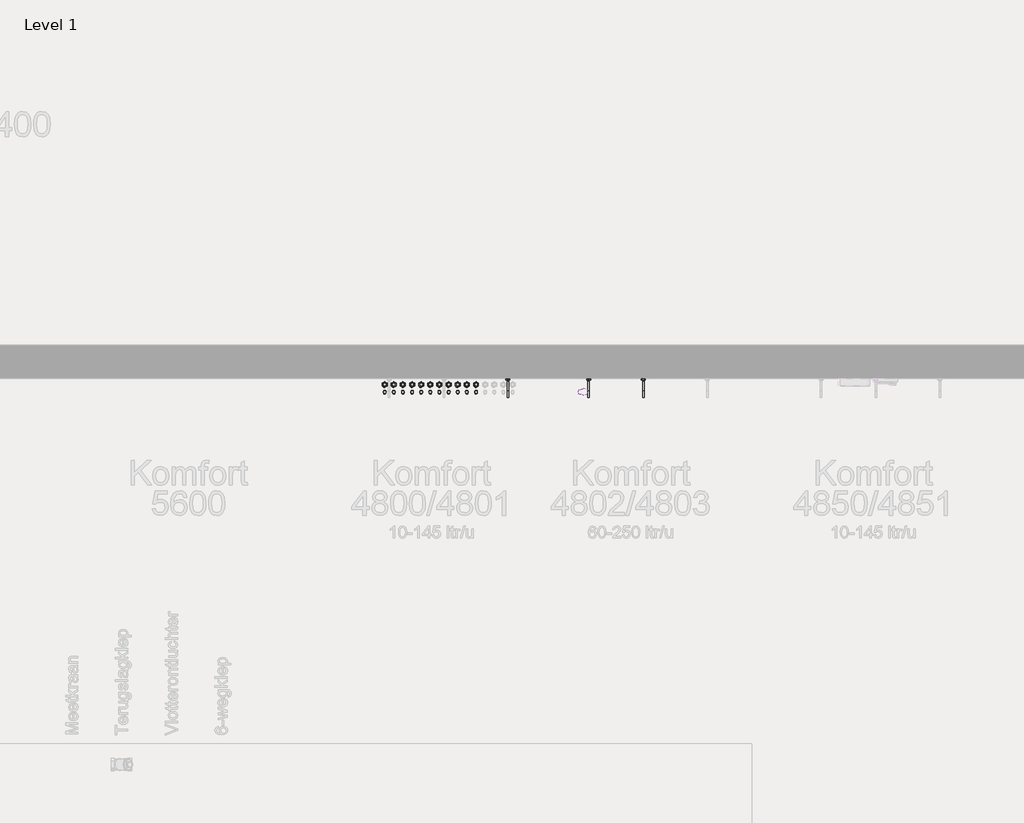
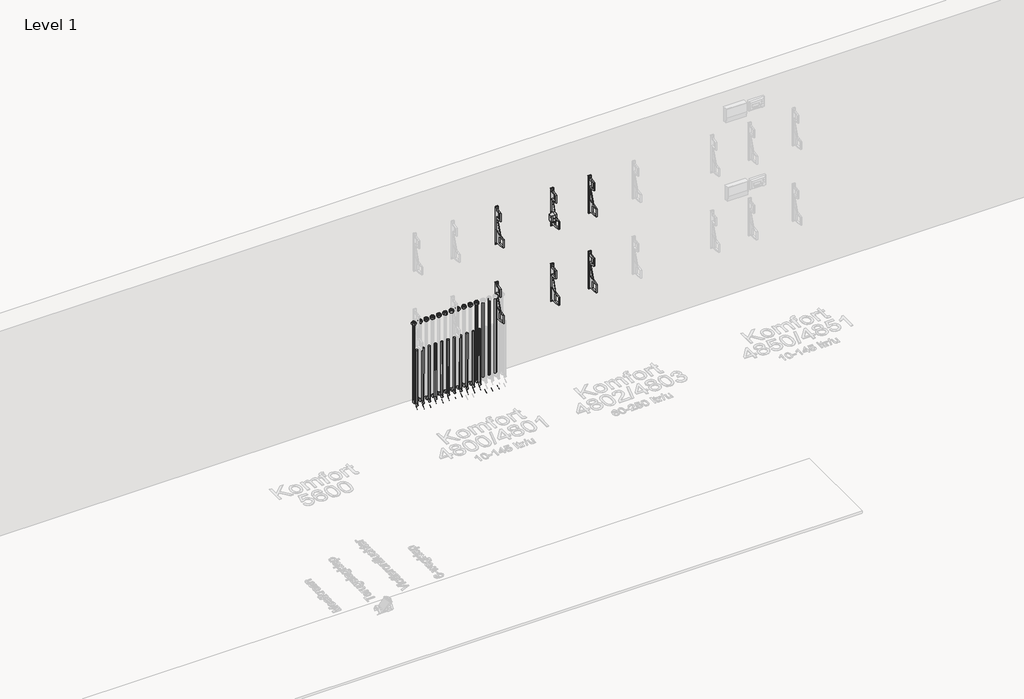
# One storey, part 7 of 34: 44 pipe fittings, 28 pipe segments, 6 proxies, 1 valve.
"""IFC4 building model written with IfcOpenShell, lengths in millimetres."""

from ifc_helpers import new_model, si_unit, point, frame, frame_2d, origin, place, context, project, spatial, circle_curve, trimmed, segment, composite_curve, outline, extrude, transform, mapped, element, save
from components import mechanical_equipment_e809440a, pipe_fitting_01076926, comfort_pipe_plus_d9ac523e, comfort_pipe_plus_d8c71379, comfort_pipe_plus_e869fb8a, valve_dab7beca

model = new_model("IFC4")

# Units and contexts
model_context = context("Model", 3, world=origin())
ifc_project = project(units=[si_unit("LENGTHUNIT", "METRE", prefix="MILLI")], contexts=[model_context])

# Site, building, storey
site = spatial("IfcSite", under=ifc_project)
building = spatial("IfcBuilding", under=site)
storey = spatial("IfcBuildingStorey", under=building, Name="Level 1", Elevation=0.0)

# Proxies
placement = place(None, origin())
mechanical_equipment_shape = mechanical_equipment_e809440a(model_context)
element("IfcBuildingElementProxy", 1, Name="400_56_KOMF_montagebeugel_2 : 400_56_KOMF_montagebeugel_2", ObjectType="400_56_KOMF_montagebeugel_2 : 400_56_KOMF_montagebeugel_2", at=placement, inside=storey, context=model_context, shape_type="MappedRepresentation", body=[
    mapped(mechanical_equipment_shape, transform((-9336.6827235, 7589.9863889, 1200.0), x_axis=(1.0, 0.0, 0.0), y_axis=(0.0, 0.0, 1.0), z_axis=(0.0, -1.0, 0.0))),
])
element("IfcBuildingElementProxy", 2, Name="400_56_KOMF_montagebeugel_2 : 400_56_KOMF_montagebeugel_2", ObjectType="400_56_KOMF_montagebeugel_2 : 400_56_KOMF_montagebeugel_2", at=placement, inside=storey, context=model_context, shape_type="MappedRepresentation", body=[
    mapped(mechanical_equipment_shape, transform((-9006.6827235, 7589.9863889, 1200.0), x_axis=(1.0, 0.0, 0.0), y_axis=(0.0, 0.0, 1.0), z_axis=(0.0, -1.0, 0.0))),
])
element("IfcBuildingElementProxy", 3, Name="400_56_KOMF_montagebeugel_2 : 400_56_KOMF_montagebeugel_2", ObjectType="400_56_KOMF_montagebeugel_2 : 400_56_KOMF_montagebeugel_2", at=placement, inside=storey, context=model_context, shape_type="MappedRepresentation", body=[
    mapped(mechanical_equipment_shape, transform((-9336.6827235, 7589.9863889, 500.0), x_axis=(1.0, 0.0, 0.0), y_axis=(0.0, 0.0, 1.0), z_axis=(0.0, -1.0, 0.0))),
])
element("IfcBuildingElementProxy", 4, Name="400_56_KOMF_montagebeugel_2 : 400_56_KOMF_montagebeugel_2", ObjectType="400_56_KOMF_montagebeugel_2 : 400_56_KOMF_montagebeugel_2", at=placement, inside=storey, context=model_context, shape_type="MappedRepresentation", body=[
    mapped(mechanical_equipment_shape, transform((-9006.6827235, 7589.9863889, 500.0), x_axis=(1.0, 0.0, 0.0), y_axis=(0.0, 0.0, 1.0), z_axis=(0.0, -1.0, 0.0))),
])
element("IfcBuildingElementProxy", 5, Name="400_56_KOMF_montagebeugel_2 : 400_56_KOMF_montagebeugel_2", ObjectType="400_56_KOMF_montagebeugel_2 : 400_56_KOMF_montagebeugel_2", at=placement, inside=storey, context=model_context, shape_type="MappedRepresentation", body=[
    mapped(mechanical_equipment_shape, transform((-9821.6827235, 7589.9863889, 1200.0), x_axis=(1.0, 0.0, 0.0), y_axis=(0.0, 0.0, 1.0), z_axis=(0.0, -1.0, 0.0))),
])
element("IfcBuildingElementProxy", 6, Name="400_56_KOMF_montagebeugel_2 : 400_56_KOMF_montagebeugel_2", ObjectType="400_56_KOMF_montagebeugel_2 : 400_56_KOMF_montagebeugel_2", at=placement, inside=storey, context=model_context, shape_type="MappedRepresentation", body=[
    mapped(mechanical_equipment_shape, transform((-9821.6827235, 7589.9863889, 500.0), x_axis=(1.0, 0.0, 0.0), y_axis=(0.0, 0.0, 1.0), z_axis=(0.0, -1.0, 0.0))),
])

# Pipe fittings
pipe_fitting_shape = pipe_fitting_01076926(model_context)
element("IfcPipeFitting", 7, ObjectType="400_5-_Uponor Vario klemringschroefkoppeling Euro : klemringschroefkoppeling s=2mm", at=placement, inside=storey, context=model_context, shape_type="MappedRepresentation", body=[
    mapped(pipe_fitting_shape, transform((-10564.1827235, 7552.9863889, 730.0), x_axis=(0.0, 0.0, 1.0), y_axis=(1.0, 0.0, 0.0), z_axis=(0.0, 1.0, 0.0))),
])
element("IfcPipeFitting", 8, ObjectType="400_5-_Uponor Vario klemringschroefkoppeling Euro : klemringschroefkoppeling s=2mm", at=placement, inside=storey, context=model_context, shape_type="MappedRepresentation", body=[
    mapped(pipe_fitting_shape, transform((-10509.1827235, 7552.9863889, 730.0), x_axis=(0.0, 0.0, 1.0), y_axis=(1.0, 0.0, 0.0), z_axis=(0.0, 1.0, 0.0))),
])
element("IfcPipeFitting", 9, ObjectType="400_5-_Uponor Vario klemringschroefkoppeling Euro : klemringschroefkoppeling s=2mm", at=placement, inside=storey, context=model_context, shape_type="MappedRepresentation", body=[
    mapped(pipe_fitting_shape, transform((-10454.1827235, 7552.9863889, 730.0), x_axis=(0.0, 0.0, 1.0), y_axis=(1.0, 0.0, 0.0), z_axis=(0.0, 1.0, 0.0))),
])
element("IfcPipeFitting", 10, ObjectType="400_5-_Uponor Vario klemringschroefkoppeling Euro : klemringschroefkoppeling s=2mm", at=placement, inside=storey, context=model_context, shape_type="MappedRepresentation", body=[
    mapped(pipe_fitting_shape, transform((-10399.1827235, 7552.9863889, 730.0), x_axis=(0.0, 0.0, 1.0), y_axis=(1.0, 0.0, 0.0), z_axis=(0.0, 1.0, 0.0))),
])
element("IfcPipeFitting", 11, ObjectType="400_5-_Uponor Vario klemringschroefkoppeling Euro : klemringschroefkoppeling s=2mm", at=placement, inside=storey, context=model_context, shape_type="MappedRepresentation", body=[
    mapped(pipe_fitting_shape, transform((-10344.1827235, 7552.9863889, 730.0), x_axis=(0.0, 0.0, 1.0), y_axis=(1.0, 0.0, 0.0), z_axis=(0.0, 1.0, 0.0))),
])
element("IfcPipeFitting", 12, ObjectType="400_5-_Uponor Vario klemringschroefkoppeling Euro : klemringschroefkoppeling s=2mm", at=placement, inside=storey, context=model_context, shape_type="MappedRepresentation", body=[
    mapped(pipe_fitting_shape, transform((-10289.1827235, 7552.9863889, 730.0), x_axis=(0.0, 0.0, 1.0), y_axis=(1.0, 0.0, 0.0), z_axis=(0.0, 1.0, 0.0))),
])
element("IfcPipeFitting", 13, ObjectType="400_5-_Uponor Vario klemringschroefkoppeling Euro : klemringschroefkoppeling s=2mm", at=placement, inside=storey, context=model_context, shape_type="MappedRepresentation", body=[
    mapped(pipe_fitting_shape, transform((-10234.1827235, 7552.9863889, 730.0), x_axis=(0.0, 0.0, 1.0), y_axis=(1.0, 0.0, 0.0), z_axis=(0.0, 1.0, 0.0))),
])
element("IfcPipeFitting", 14, ObjectType="400_5-_Uponor Vario klemringschroefkoppeling Euro : klemringschroefkoppeling s=2mm", at=placement, inside=storey, context=model_context, shape_type="MappedRepresentation", body=[
    mapped(pipe_fitting_shape, transform((-10179.1827235, 7552.9863889, 730.0), x_axis=(0.0, 0.0, 1.0), y_axis=(1.0, 0.0, 0.0), z_axis=(0.0, 1.0, 0.0))),
])
element("IfcPipeFitting", 15, ObjectType="400_5-_Uponor Vario klemringschroefkoppeling Euro : klemringschroefkoppeling s=2mm", at=placement, inside=storey, context=model_context, shape_type="MappedRepresentation", body=[
    mapped(pipe_fitting_shape, transform((-10124.1827235, 7552.9863889, 730.0), x_axis=(0.0, 0.0, 1.0), y_axis=(1.0, 0.0, 0.0), z_axis=(0.0, 1.0, 0.0))),
])
element("IfcPipeFitting", 16, ObjectType="400_5-_Uponor Vario klemringschroefkoppeling Euro : klemringschroefkoppeling s=2mm", at=placement, inside=storey, context=model_context, shape_type="MappedRepresentation", body=[
    mapped(pipe_fitting_shape, transform((-10069.1827235, 7552.9863889, 730.0), x_axis=(0.0, 0.0, 1.0), y_axis=(1.0, 0.0, 0.0), z_axis=(0.0, 1.0, 0.0))),
])
element("IfcPipeFitting", 17, ObjectType="400_5-_Uponor Vario klemringschroefkoppeling Euro : klemringschroefkoppeling s=2mm", at=placement, inside=storey, context=model_context, shape_type="MappedRepresentation", body=[
    mapped(pipe_fitting_shape, transform((-10014.1827235, 7552.9863889, 730.0), x_axis=(0.0, 0.0, 1.0), y_axis=(1.0, 0.0, 0.0), z_axis=(0.0, 1.0, 0.0))),
])
comfort_pipe_plus_shape = comfort_pipe_plus_d9ac523e(model_context)
element("IfcPipeFitting", 18, ObjectType="400_5-_Uponor_curved_Elbow : Comfort pipe PLUS", at=placement, inside=storey, context=model_context, shape_type="MappedRepresentation", body=[
    mapped(comfort_pipe_plus_shape, transform((-10564.1827235, 7552.9863889, -43.6490683), x_axis=(0.22560146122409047, 0.974219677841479, 0.0), y_axis=(0.0, 0.0, 1.0), z_axis=(0.974219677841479, -0.22560146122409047, 0.0))),
])
element("IfcPipeFitting", 19, ObjectType="400_5-_Uponor_curved_Elbow : Comfort pipe PLUS", at=placement, inside=storey, context=model_context, shape_type="MappedRepresentation", body=[
    mapped(comfort_pipe_plus_shape, transform((-10509.1827235, 7552.9863889, -43.6490683), x_axis=(0.22560146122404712, 0.9742196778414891, 0.0), y_axis=(0.0, 0.0, 1.0), z_axis=(0.9742196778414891, -0.22560146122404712, 0.0))),
])
element("IfcPipeFitting", 20, ObjectType="400_5-_Uponor_curved_Elbow : Comfort pipe PLUS", at=placement, inside=storey, context=model_context, shape_type="MappedRepresentation", body=[
    mapped(comfort_pipe_plus_shape, transform((-10454.1827235, 7552.9863889, -43.6490683), x_axis=(0.22560146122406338, 0.9742196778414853, 0.0), y_axis=(0.0, 0.0, 1.0), z_axis=(0.9742196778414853, -0.22560146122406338, 0.0))),
])
element("IfcPipeFitting", 21, ObjectType="400_5-_Uponor_curved_Elbow : Comfort pipe PLUS", at=placement, inside=storey, context=model_context, shape_type="MappedRepresentation", body=[
    mapped(comfort_pipe_plus_shape, transform((-10399.1827235, 7552.9863889, -43.6490683), x_axis=(0.22560146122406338, 0.9742196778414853, 0.0), y_axis=(0.0, 0.0, 1.0), z_axis=(0.9742196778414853, -0.22560146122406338, 0.0))),
])
element("IfcPipeFitting", 22, ObjectType="400_5-_Uponor_curved_Elbow : Comfort pipe PLUS", at=placement, inside=storey, context=model_context, shape_type="MappedRepresentation", body=[
    mapped(comfort_pipe_plus_shape, transform((-10344.1827235, 7552.9863889, -43.6490683), x_axis=(0.22560146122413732, 0.9742196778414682, 0.0), y_axis=(0.0, 0.0, 1.0000000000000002), z_axis=(0.9742196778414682, -0.22560146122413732, 0.0))),
])
element("IfcPipeFitting", 23, ObjectType="400_5-_Uponor_curved_Elbow : Comfort pipe PLUS", at=placement, inside=storey, context=model_context, shape_type="MappedRepresentation", body=[
    mapped(comfort_pipe_plus_shape, transform((-10289.1827235, 7552.9863889, -43.6490683), x_axis=(0.22560146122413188, 0.9742196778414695, 0.0), y_axis=(0.0, 0.0, 1.0), z_axis=(0.9742196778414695, -0.22560146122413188, 0.0))),
])
element("IfcPipeFitting", 24, ObjectType="400_5-_Uponor_curved_Elbow : Comfort pipe PLUS", at=placement, inside=storey, context=model_context, shape_type="MappedRepresentation", body=[
    mapped(comfort_pipe_plus_shape, transform((-10234.1827235, 7552.9863889, -43.6490683), x_axis=(0.22560146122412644, 0.9742196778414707, 0.0), y_axis=(0.0, 0.0, 1.0), z_axis=(0.9742196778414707, -0.22560146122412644, 0.0))),
])
element("IfcPipeFitting", 25, ObjectType="400_5-_Uponor_curved_Elbow : Comfort pipe PLUS", at=placement, inside=storey, context=model_context, shape_type="MappedRepresentation", body=[
    mapped(comfort_pipe_plus_shape, transform((-10179.1827235, 7552.9863889, -43.6490683), x_axis=(0.22560146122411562, 0.9742196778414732, 0.0), y_axis=(0.0, 0.0, 1.0), z_axis=(0.9742196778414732, -0.22560146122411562, 0.0))),
])
element("IfcPipeFitting", 26, ObjectType="400_5-_Uponor_curved_Elbow : Comfort pipe PLUS", at=placement, inside=storey, context=model_context, shape_type="MappedRepresentation", body=[
    mapped(comfort_pipe_plus_shape, transform((-10124.1827235, 7552.9863889, -43.6490683), x_axis=(0.22560146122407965, 0.9742196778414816, 0.0), y_axis=(0.0, 0.0, 1.0), z_axis=(0.9742196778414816, -0.22560146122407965, 0.0))),
])
element("IfcPipeFitting", 27, ObjectType="400_5-_Uponor_curved_Elbow : Comfort pipe PLUS", at=placement, inside=storey, context=model_context, shape_type="MappedRepresentation", body=[
    mapped(comfort_pipe_plus_shape, transform((-10069.1827235, 7552.9863889, -43.6490683), x_axis=(0.22560146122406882, 0.9742196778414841, 0.0), y_axis=(0.0, 0.0, 1.0), z_axis=(0.9742196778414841, -0.22560146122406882, 0.0))),
])
element("IfcPipeFitting", 28, ObjectType="400_5-_Uponor_curved_Elbow : Comfort pipe PLUS", at=placement, inside=storey, context=model_context, shape_type="MappedRepresentation", body=[
    mapped(comfort_pipe_plus_shape, transform((-10014.1827235, 7552.9863889, -43.6490683), x_axis=(0.2256014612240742, 0.9742196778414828, 0.0), y_axis=(0.0, 0.0, 1.0), z_axis=(0.9742196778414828, -0.2256014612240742, 0.0))),
])
comfort_pipe_plus_2_shape = comfort_pipe_plus_d8c71379(model_context)
element("IfcPipeFitting", 29, ObjectType="400_5-_Uponor_curved_Elbow : Comfort pipe PLUS", at=placement, inside=storey, context=model_context, shape_type="MappedRepresentation", body=[
    mapped(comfort_pipe_plus_2_shape, transform((-10591.6827235, 7434.2325431, -43.6490683), x_axis=(-0.22560146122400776, -0.9742196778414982, 0.0), y_axis=(0.9742196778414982, -0.22560146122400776, 0.0), z_axis=(0.0, 0.0, 1.0))),
])
element("IfcPipeFitting", 30, ObjectType="400_5-_Uponor_curved_Elbow : Comfort pipe PLUS", at=placement, inside=storey, context=model_context, shape_type="MappedRepresentation", body=[
    mapped(comfort_pipe_plus_2_shape, transform((-10536.6827235, 7434.2325431, -43.6490683), x_axis=(-0.22560146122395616, -0.9742196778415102, 0.0), y_axis=(0.9742196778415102, -0.22560146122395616, 0.0), z_axis=(0.0, 0.0, 1.0))),
])
element("IfcPipeFitting", 31, ObjectType="400_5-_Uponor_curved_Elbow : Comfort pipe PLUS", at=placement, inside=storey, context=model_context, shape_type="MappedRepresentation", body=[
    mapped(comfort_pipe_plus_2_shape, transform((-10481.6827235, 7434.2325431, -43.6490683), x_axis=(-0.22560146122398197, -0.9742196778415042, 0.0), y_axis=(0.9742196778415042, -0.22560146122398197, 0.0), z_axis=(0.0, 0.0, 1.0))),
])
element("IfcPipeFitting", 32, ObjectType="400_5-_Uponor_curved_Elbow : Comfort pipe PLUS", at=placement, inside=storey, context=model_context, shape_type="MappedRepresentation", body=[
    mapped(comfort_pipe_plus_2_shape, transform((-10426.6827235, 7434.2325431, -43.6490683), x_axis=(-0.22560146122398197, -0.9742196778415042, 0.0), y_axis=(0.9742196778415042, -0.22560146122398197, 0.0), z_axis=(0.0, 0.0, 1.0))),
])
element("IfcPipeFitting", 33, ObjectType="400_5-_Uponor_curved_Elbow : Comfort pipe PLUS", at=placement, inside=storey, context=model_context, shape_type="MappedRepresentation", body=[
    mapped(comfort_pipe_plus_2_shape, transform((-10371.6827235, 7434.2325431, -43.6490683), x_axis=(-0.22560146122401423, -0.9742196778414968, 0.0), y_axis=(0.9742196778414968, -0.22560146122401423, 0.0), z_axis=(0.0, 0.0, 1.0))),
])
element("IfcPipeFitting", 34, ObjectType="400_5-_Uponor_curved_Elbow : Comfort pipe PLUS", at=placement, inside=storey, context=model_context, shape_type="MappedRepresentation", body=[
    mapped(comfort_pipe_plus_2_shape, transform((-10316.6827235, 7434.2325431, -43.6490683), x_axis=(-0.22560146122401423, -0.9742196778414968, 0.0), y_axis=(0.9742196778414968, -0.22560146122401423, 0.0), z_axis=(0.0, 0.0, 1.0))),
])
element("IfcPipeFitting", 35, ObjectType="400_5-_Uponor_curved_Elbow : Comfort pipe PLUS", at=placement, inside=storey, context=model_context, shape_type="MappedRepresentation", body=[
    mapped(comfort_pipe_plus_2_shape, transform((-10261.6827235, 7434.2325431, -43.6490683), x_axis=(-0.22560146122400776, -0.9742196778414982, 0.0), y_axis=(0.9742196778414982, -0.22560146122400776, 0.0), z_axis=(0.0, 0.0, 1.0))),
])
element("IfcPipeFitting", 36, ObjectType="400_5-_Uponor_curved_Elbow : Comfort pipe PLUS", at=placement, inside=storey, context=model_context, shape_type="MappedRepresentation", body=[
    mapped(comfort_pipe_plus_2_shape, transform((-10206.6827235, 7434.2325431, -43.6490683), x_axis=(-0.22560146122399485, -0.9742196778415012, 0.0), y_axis=(0.9742196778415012, -0.22560146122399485, 0.0), z_axis=(0.0, 0.0, 1.0))),
])
element("IfcPipeFitting", 37, ObjectType="400_5-_Uponor_curved_Elbow : Comfort pipe PLUS", at=placement, inside=storey, context=model_context, shape_type="MappedRepresentation", body=[
    mapped(comfort_pipe_plus_2_shape, transform((-10041.6827235, 7434.2325431, -43.6490683), x_axis=(-0.2256014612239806, -0.9742196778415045, 0.0), y_axis=(0.9742196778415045, -0.2256014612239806, 0.0), z_axis=(0.0, 0.0, 1.0))),
])
element("IfcPipeFitting", 38, ObjectType="400_5-_Uponor_curved_Elbow : Comfort pipe PLUS", at=placement, inside=storey, context=model_context, shape_type="MappedRepresentation", body=[
    mapped(comfort_pipe_plus_2_shape, transform((-10096.6827235, 7434.2325431, -43.6490683), x_axis=(-0.22560146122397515, -0.9742196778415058, 0.0), y_axis=(0.9742196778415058, -0.22560146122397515, 0.0), z_axis=(0.0, 0.0, 1.0))),
])
element("IfcPipeFitting", 39, ObjectType="400_5-_Uponor_curved_Elbow : Comfort pipe PLUS", at=placement, inside=storey, context=model_context, shape_type="MappedRepresentation", body=[
    mapped(comfort_pipe_plus_2_shape, transform((-10151.6827235, 7434.2325431, -43.6490683), x_axis=(-0.225601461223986, -0.9742196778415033, 0.0), y_axis=(0.9742196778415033, -0.225601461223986, 0.0), z_axis=(0.0, 0.0, 1.0))),
])
comfort_pipe_plus_3_shape = comfort_pipe_plus_e869fb8a(model_context)
element("IfcPipeFitting", 40, ObjectType="400_5-_Uponor_curved_Elbow : Comfort pipe PLUS", at=placement, inside=storey, context=model_context, shape_type="MappedRepresentation", body=[
    mapped(comfort_pipe_plus_3_shape, transform((-10014.1827235, 7509.9863889, -43.6490683), x_axis=(0.0, 1.0, 0.0), y_axis=(0.0, 0.0, 1.0), z_axis=(1.0, 0.0, 0.0))),
])
element("IfcPipeFitting", 41, ObjectType="400_5-_Uponor_curved_Elbow : Comfort pipe PLUS", at=placement, inside=storey, context=model_context, shape_type="MappedRepresentation", body=[
    mapped(comfort_pipe_plus_3_shape, transform((-10069.1827235, 7509.9863889, -43.6490683), x_axis=(0.0, 1.0, 0.0), y_axis=(0.0, 0.0, 1.0), z_axis=(1.0, 0.0, 0.0))),
])
element("IfcPipeFitting", 42, ObjectType="400_5-_Uponor_curved_Elbow : Comfort pipe PLUS", at=placement, inside=storey, context=model_context, shape_type="MappedRepresentation", body=[
    mapped(comfort_pipe_plus_3_shape, transform((-10124.1827235, 7509.9863889, -43.6490683), x_axis=(0.0, 1.0, 0.0), y_axis=(0.0, 0.0, 1.0), z_axis=(1.0, 0.0, 0.0))),
])
element("IfcPipeFitting", 43, ObjectType="400_5-_Uponor_curved_Elbow : Comfort pipe PLUS", at=placement, inside=storey, context=model_context, shape_type="MappedRepresentation", body=[
    mapped(comfort_pipe_plus_3_shape, transform((-10179.1827235, 7509.9863889, -43.6490683), x_axis=(0.0, 1.0, 0.0), y_axis=(0.0, 0.0, 1.0), z_axis=(1.0, 0.0, 0.0))),
])
element("IfcPipeFitting", 44, ObjectType="400_5-_Uponor_curved_Elbow : Comfort pipe PLUS", at=placement, inside=storey, context=model_context, shape_type="MappedRepresentation", body=[
    mapped(comfort_pipe_plus_3_shape, transform((-10234.1827235, 7509.9863889, -43.6490683), x_axis=(0.0, 1.0, 0.0), y_axis=(0.0, 0.0, 1.0), z_axis=(1.0, 0.0, 0.0))),
])
element("IfcPipeFitting", 45, ObjectType="400_5-_Uponor_curved_Elbow : Comfort pipe PLUS", at=placement, inside=storey, context=model_context, shape_type="MappedRepresentation", body=[
    mapped(comfort_pipe_plus_3_shape, transform((-10289.1827235, 7509.9863889, -43.6490683), x_axis=(0.0, 1.0, 0.0), y_axis=(0.0, 0.0, 1.0), z_axis=(1.0, 0.0, 0.0))),
])
element("IfcPipeFitting", 46, ObjectType="400_5-_Uponor_curved_Elbow : Comfort pipe PLUS", at=placement, inside=storey, context=model_context, shape_type="MappedRepresentation", body=[
    mapped(comfort_pipe_plus_3_shape, transform((-10344.1827235, 7509.9863889, -43.6490683), x_axis=(0.0, 1.0, 0.0), y_axis=(0.0, 0.0, 1.0), z_axis=(1.0, 0.0, 0.0))),
])
element("IfcPipeFitting", 47, ObjectType="400_5-_Uponor_curved_Elbow : Comfort pipe PLUS", at=placement, inside=storey, context=model_context, shape_type="MappedRepresentation", body=[
    mapped(comfort_pipe_plus_3_shape, transform((-10399.1827235, 7509.9863889, -43.6490683), x_axis=(0.0, 1.0, 0.0), y_axis=(0.0, 0.0, 1.0), z_axis=(1.0, 0.0, 0.0))),
])
element("IfcPipeFitting", 48, ObjectType="400_5-_Uponor_curved_Elbow : Comfort pipe PLUS", at=placement, inside=storey, context=model_context, shape_type="MappedRepresentation", body=[
    mapped(comfort_pipe_plus_3_shape, transform((-10454.1827235, 7509.9863889, -43.6490683), x_axis=(0.0, 1.0, 0.0), y_axis=(0.0, 0.0, 1.0), z_axis=(1.0, 0.0, 0.0))),
])
element("IfcPipeFitting", 49, ObjectType="400_5-_Uponor_curved_Elbow : Comfort pipe PLUS", at=placement, inside=storey, context=model_context, shape_type="MappedRepresentation", body=[
    mapped(comfort_pipe_plus_3_shape, transform((-10509.1827235, 7509.9863889, -43.6490683), x_axis=(0.0, 1.0, 0.0), y_axis=(0.0, 0.0, 1.0), z_axis=(1.0, 0.0, 0.0))),
])
element("IfcPipeFitting", 50, ObjectType="400_5-_Uponor_curved_Elbow : Comfort pipe PLUS", at=placement, inside=storey, context=model_context, shape_type="MappedRepresentation", body=[
    mapped(comfort_pipe_plus_3_shape, transform((-10564.1827235, 7509.9863889, -43.6490683), x_axis=(0.0, 1.0, 0.0), y_axis=(0.0, 0.0, 1.0), z_axis=(1.0, 0.0, 0.0))),
])

# Pipe segments
element("IfcPipeSegment", 51, ObjectType="Uponor Comfort Pipe PLUS / VVL", at=placement, inside=storey, context=model_context, shape_type="SweptSolid", body=[
    extrude(outline(composite_curve([segment(trimmed(circle_curve(frame_2d((-10014.1827235, 7552.9863889)), 8.5), [point((-10022.6827235, 7552.9863889))], [point((-10014.1827235, 7561.4863889))], False, "CARTESIAN"), True, "CONTINUOUS"), segment(trimmed(circle_curve(frame_2d((-10014.1827235, 7552.9863889)), 8.5), [point((-10014.1827235, 7561.4863889))], [point((-10005.6827235, 7552.9863889))], False, "CARTESIAN"), True, "CONTINUOUS"), segment(trimmed(circle_curve(frame_2d((-10014.1827235, 7552.9863889)), 8.5), [point((-10005.6827235, 7552.9863889))], [point((-10014.1827235, 7544.4863889))], False, "CARTESIAN"), True, "CONTINUOUS"), segment(trimmed(circle_curve(frame_2d((-10014.1827235, 7552.9863889)), 8.5), [point((-10014.1827235, 7544.4863889))], [point((-10022.6827235, 7552.9863889))], False, "CARTESIAN"), True, "CONTINUOUS")], self_intersect=False)), frame((0.0, 0.0, 26.3509317), z_axis=(0.0, 0.0, 1.0), x_axis=(1.0, 0.0, 0.0)), (0.0, 0.0, 1.0), 703.6490683),
])
element("IfcPipeSegment", 52, ObjectType="Uponor Comfort Pipe PLUS / VVL", at=placement, inside=storey, context=model_context, shape_type="SweptSolid", body=[
    extrude(outline(composite_curve([segment(trimmed(circle_curve(frame_2d((-43.6490683, -9959.1827235)), 8.5), [point((-43.6490683, -9967.6827235))], [point((-52.1490683, -9959.1827235))], False, "CARTESIAN"), True, "CONTINUOUS"), segment(trimmed(circle_curve(frame_2d((-43.6490683, -9959.1827235)), 8.5), [point((-52.1490683, -9959.1827235))], [point((-43.6490683, -9950.6827235))], False, "CARTESIAN"), True, "CONTINUOUS"), segment(trimmed(circle_curve(frame_2d((-43.6490683, -9959.1827235)), 8.5), [point((-43.6490683, -9950.6827235))], [point((-35.1490683, -9959.1827235))], False, "CARTESIAN"), True, "CONTINUOUS"), segment(trimmed(circle_curve(frame_2d((-43.6490683, -9959.1827235)), 8.5), [point((-35.1490683, -9959.1827235))], [point((-43.6490683, -9967.6827235))], False, "CARTESIAN"), True, "CONTINUOUS")], self_intersect=False)), frame((0.0, 7193.8942465, 0.0), z_axis=(0.0, 1.0, 0.0), x_axis=(0.0, 0.0, 1.0)), (0.0, 0.0, 1.0), 245.9527973),
])
element("IfcPipeSegment", 53, ObjectType="Uponor Comfort Pipe PLUS / VVL", at=placement, inside=storey, context=model_context, shape_type="SweptSolid", body=[
    extrude(outline(composite_curve([segment(trimmed(circle_curve(frame_2d((-43.6490683, -9986.6827235)), 8.5), [point((-43.6490683, -9995.1827235))], [point((-52.1490683, -9986.6827235))], False, "CARTESIAN"), True, "CONTINUOUS"), segment(trimmed(circle_curve(frame_2d((-43.6490683, -9986.6827235)), 8.5), [point((-52.1490683, -9986.6827235))], [point((-43.6490683, -9978.1827235))], False, "CARTESIAN"), True, "CONTINUOUS"), segment(trimmed(circle_curve(frame_2d((-43.6490683, -9986.6827235)), 8.5), [point((-43.6490683, -9978.1827235))], [point((-35.1490683, -9986.6827235))], False, "CARTESIAN"), True, "CONTINUOUS"), segment(trimmed(circle_curve(frame_2d((-43.6490683, -9986.6827235)), 8.5), [point((-35.1490683, -9986.6827235))], [point((-43.6490683, -9995.1827235))], False, "CARTESIAN"), True, "CONTINUOUS")], self_intersect=False)), frame((0.0, 7193.8942465, 0.0), z_axis=(0.0, 1.0, 0.0), x_axis=(0.0, 0.0, 1.0)), (0.0, 0.0, 1.0), 232.339135),
])
element("IfcPipeSegment", 54, ObjectType="Uponor Comfort Pipe PLUS / VVL", at=placement, inside=storey, context=model_context, shape_type="SweptSolid", body=[
    extrude(outline(composite_curve([segment(trimmed(circle_curve(frame_2d((0.0, -8.5)), 8.5), [point((-8.5, -8.5))], [point((0.0, 0.0))], False, "CARTESIAN"), True, "CONTINUOUS"), segment(trimmed(circle_curve(frame_2d((0.0, -8.5)), 8.5), [point((0.0, 0.0))], [point((8.5, -8.5))], False, "CARTESIAN"), True, "CONTINUOUS"), segment(trimmed(circle_curve(frame_2d((0.0, -8.5)), 8.5), [point((8.5, -8.5))], [point((0.0, -17.0))], False, "CARTESIAN"), True, "CONTINUOUS"), segment(trimmed(circle_curve(frame_2d((0.0, -8.5)), 8.5), [point((0.0, -17.0))], [point((-8.5, -8.5))], False, "CARTESIAN"), True, "CONTINUOUS")], self_intersect=False)), frame((-9984.878101, 7442.0254837, -52.1490683), z_axis=(0.2256014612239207, 0.9742196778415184, 0.0), x_axis=(0.9742196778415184, -0.2256014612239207, 0.0)), (0.0, 0.0, 1.0), 43.897212),
])
element("IfcPipeSegment", 55, ObjectType="Uponor Comfort Pipe PLUS / VVL", at=placement, inside=storey, context=model_context, shape_type="SweptSolid", body=[
    extrude(outline(composite_curve([segment(trimmed(circle_curve(frame_2d((-9959.1827235, 7552.9863889)), 8.5), [point((-9967.6827235, 7552.9863889))], [point((-9959.1827235, 7561.4863889))], False, "CARTESIAN"), True, "CONTINUOUS"), segment(trimmed(circle_curve(frame_2d((-9959.1827235, 7552.9863889)), 8.5), [point((-9959.1827235, 7561.4863889))], [point((-9950.6827235, 7552.9863889))], False, "CARTESIAN"), True, "CONTINUOUS"), segment(trimmed(circle_curve(frame_2d((-9959.1827235, 7552.9863889)), 8.5), [point((-9950.6827235, 7552.9863889))], [point((-9959.1827235, 7544.4863889))], False, "CARTESIAN"), True, "CONTINUOUS"), segment(trimmed(circle_curve(frame_2d((-9959.1827235, 7552.9863889)), 8.5), [point((-9959.1827235, 7544.4863889))], [point((-9967.6827235, 7552.9863889))], False, "CARTESIAN"), True, "CONTINUOUS")], self_intersect=False)), frame((0.0, 0.0, 26.3509317), z_axis=(0.0, 0.0, 1.0), x_axis=(1.0, 0.0, 0.0)), (0.0, 0.0, 1.0), 703.6490683),
])
element("IfcPipeSegment", 56, ObjectType="Uponor Comfort Pipe PLUS / VVL", at=placement, inside=storey, context=model_context, shape_type="SweptSolid", body=[
    extrude(outline(composite_curve([segment(trimmed(circle_curve(frame_2d((-43.6490683, -9904.1827235)), 8.5), [point((-43.6490683, -9912.6827235))], [point((-52.1490683, -9904.1827235))], False, "CARTESIAN"), True, "CONTINUOUS"), segment(trimmed(circle_curve(frame_2d((-43.6490683, -9904.1827235)), 8.5), [point((-52.1490683, -9904.1827235))], [point((-43.6490683, -9895.6827235))], False, "CARTESIAN"), True, "CONTINUOUS"), segment(trimmed(circle_curve(frame_2d((-43.6490683, -9904.1827235)), 8.5), [point((-43.6490683, -9895.6827235))], [point((-35.1490683, -9904.1827235))], False, "CARTESIAN"), True, "CONTINUOUS"), segment(trimmed(circle_curve(frame_2d((-43.6490683, -9904.1827235)), 8.5), [point((-35.1490683, -9904.1827235))], [point((-43.6490683, -9912.6827235))], False, "CARTESIAN"), True, "CONTINUOUS")], self_intersect=False)), frame((0.0, 7193.8942465, 0.0), z_axis=(0.0, 1.0, 0.0), x_axis=(0.0, 0.0, 1.0)), (0.0, 0.0, 1.0), 245.9527973),
])
element("IfcPipeSegment", 57, ObjectType="Uponor Comfort Pipe PLUS / VVL", at=placement, inside=storey, context=model_context, shape_type="SweptSolid", body=[
    extrude(outline(composite_curve([segment(trimmed(circle_curve(frame_2d((-43.6490683, -9931.6827235)), 8.5), [point((-43.6490683, -9940.1827235))], [point((-52.1490683, -9931.6827235))], False, "CARTESIAN"), True, "CONTINUOUS"), segment(trimmed(circle_curve(frame_2d((-43.6490683, -9931.6827235)), 8.5), [point((-52.1490683, -9931.6827235))], [point((-43.6490683, -9923.1827235))], False, "CARTESIAN"), True, "CONTINUOUS"), segment(trimmed(circle_curve(frame_2d((-43.6490683, -9931.6827235)), 8.5), [point((-43.6490683, -9923.1827235))], [point((-35.1490683, -9931.6827235))], False, "CARTESIAN"), True, "CONTINUOUS"), segment(trimmed(circle_curve(frame_2d((-43.6490683, -9931.6827235)), 8.5), [point((-35.1490683, -9931.6827235))], [point((-43.6490683, -9940.1827235))], False, "CARTESIAN"), True, "CONTINUOUS")], self_intersect=False)), frame((0.0, 7193.8942465, 0.0), z_axis=(0.0, 1.0, 0.0), x_axis=(0.0, 0.0, 1.0)), (0.0, 0.0, 1.0), 232.339135),
])
element("IfcPipeSegment", 58, ObjectType="Uponor Comfort Pipe PLUS / VVL", at=placement, inside=storey, context=model_context, shape_type="SweptSolid", body=[
    extrude(outline(composite_curve([segment(trimmed(circle_curve(frame_2d((0.0, -8.5)), 8.5), [point((-8.5, -8.5))], [point((0.0, 0.0))], False, "CARTESIAN"), True, "CONTINUOUS"), segment(trimmed(circle_curve(frame_2d((0.0, -8.5)), 8.5), [point((0.0, 0.0))], [point((8.5, -8.5))], False, "CARTESIAN"), True, "CONTINUOUS"), segment(trimmed(circle_curve(frame_2d((0.0, -8.5)), 8.5), [point((8.5, -8.5))], [point((0.0, -17.0))], False, "CARTESIAN"), True, "CONTINUOUS"), segment(trimmed(circle_curve(frame_2d((0.0, -8.5)), 8.5), [point((0.0, -17.0))], [point((-8.5, -8.5))], False, "CARTESIAN"), True, "CONTINUOUS")], self_intersect=False)), frame((-9929.878101, 7442.0254837, -52.1490683), z_axis=(0.2256014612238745, 0.9742196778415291, 0.0), x_axis=(0.9742196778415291, -0.2256014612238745, 0.0)), (0.0, 0.0, 1.0), 43.897212),
])
element("IfcPipeSegment", 59, ObjectType="Uponor Comfort Pipe PLUS / VVL", at=placement, inside=storey, context=model_context, shape_type="SweptSolid", body=[
    extrude(outline(composite_curve([segment(trimmed(circle_curve(frame_2d((-9904.1827235, 7552.9863889)), 8.5), [point((-9912.6827235, 7552.9863889))], [point((-9904.1827235, 7561.4863889))], False, "CARTESIAN"), True, "CONTINUOUS"), segment(trimmed(circle_curve(frame_2d((-9904.1827235, 7552.9863889)), 8.5), [point((-9904.1827235, 7561.4863889))], [point((-9895.6827235, 7552.9863889))], False, "CARTESIAN"), True, "CONTINUOUS"), segment(trimmed(circle_curve(frame_2d((-9904.1827235, 7552.9863889)), 8.5), [point((-9895.6827235, 7552.9863889))], [point((-9904.1827235, 7544.4863889))], False, "CARTESIAN"), True, "CONTINUOUS"), segment(trimmed(circle_curve(frame_2d((-9904.1827235, 7552.9863889)), 8.5), [point((-9904.1827235, 7544.4863889))], [point((-9912.6827235, 7552.9863889))], False, "CARTESIAN"), True, "CONTINUOUS")], self_intersect=False)), frame((0.0, 0.0, 26.3509317), z_axis=(0.0, 0.0, 1.0), x_axis=(1.0, 0.0, 0.0)), (0.0, 0.0, 1.0), 703.6490683),
])
element("IfcPipeSegment", 60, ObjectType="Uponor Comfort Pipe PLUS / VVL", at=placement, inside=storey, context=model_context, shape_type="SweptSolid", body=[
    extrude(outline(composite_curve([segment(trimmed(circle_curve(frame_2d((-43.6490683, -9849.1827235)), 8.5), [point((-43.6490683, -9857.6827235))], [point((-52.1490683, -9849.1827235))], False, "CARTESIAN"), True, "CONTINUOUS"), segment(trimmed(circle_curve(frame_2d((-43.6490683, -9849.1827235)), 8.5), [point((-52.1490683, -9849.1827235))], [point((-43.6490683, -9840.6827235))], False, "CARTESIAN"), True, "CONTINUOUS"), segment(trimmed(circle_curve(frame_2d((-43.6490683, -9849.1827235)), 8.5), [point((-43.6490683, -9840.6827235))], [point((-35.1490683, -9849.1827235))], False, "CARTESIAN"), True, "CONTINUOUS"), segment(trimmed(circle_curve(frame_2d((-43.6490683, -9849.1827235)), 8.5), [point((-35.1490683, -9849.1827235))], [point((-43.6490683, -9857.6827235))], False, "CARTESIAN"), True, "CONTINUOUS")], self_intersect=False)), frame((0.0, 7193.8942465, 0.0), z_axis=(0.0, 1.0, 0.0), x_axis=(0.0, 0.0, 1.0)), (0.0, 0.0, 1.0), 245.9527973),
])
element("IfcPipeSegment", 61, ObjectType="Uponor Comfort Pipe PLUS / VVL", at=placement, inside=storey, context=model_context, shape_type="SweptSolid", body=[
    extrude(outline(composite_curve([segment(trimmed(circle_curve(frame_2d((-43.6490683, -9876.6827235)), 8.5), [point((-43.6490683, -9885.1827235))], [point((-52.1490683, -9876.6827235))], False, "CARTESIAN"), True, "CONTINUOUS"), segment(trimmed(circle_curve(frame_2d((-43.6490683, -9876.6827235)), 8.5), [point((-52.1490683, -9876.6827235))], [point((-43.6490683, -9868.1827235))], False, "CARTESIAN"), True, "CONTINUOUS"), segment(trimmed(circle_curve(frame_2d((-43.6490683, -9876.6827235)), 8.5), [point((-43.6490683, -9868.1827235))], [point((-35.1490683, -9876.6827235))], False, "CARTESIAN"), True, "CONTINUOUS"), segment(trimmed(circle_curve(frame_2d((-43.6490683, -9876.6827235)), 8.5), [point((-35.1490683, -9876.6827235))], [point((-43.6490683, -9885.1827235))], False, "CARTESIAN"), True, "CONTINUOUS")], self_intersect=False)), frame((0.0, 7193.8942465, 0.0), z_axis=(0.0, 1.0, 0.0), x_axis=(0.0, 0.0, 1.0)), (0.0, 0.0, 1.0), 232.339135),
])
element("IfcPipeSegment", 62, ObjectType="Uponor Comfort Pipe PLUS / VVL", at=placement, inside=storey, context=model_context, shape_type="SweptSolid", body=[
    extrude(outline(composite_curve([segment(trimmed(circle_curve(frame_2d((0.0, -8.5)), 8.5), [point((-8.5, -8.5))], [point((0.0, 0.0))], False, "CARTESIAN"), True, "CONTINUOUS"), segment(trimmed(circle_curve(frame_2d((0.0, -8.5)), 8.5), [point((0.0, 0.0))], [point((8.5, -8.5))], False, "CARTESIAN"), True, "CONTINUOUS"), segment(trimmed(circle_curve(frame_2d((0.0, -8.5)), 8.5), [point((8.5, -8.5))], [point((0.0, -17.0))], False, "CARTESIAN"), True, "CONTINUOUS"), segment(trimmed(circle_curve(frame_2d((0.0, -8.5)), 8.5), [point((0.0, -17.0))], [point((-8.5, -8.5))], False, "CARTESIAN"), True, "CONTINUOUS")], self_intersect=False)), frame((-9874.878101, 7442.0254837, -52.1490683), z_axis=(0.22560146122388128, 0.9742196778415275, 0.0), x_axis=(0.9742196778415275, -0.22560146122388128, 0.0)), (0.0, 0.0, 1.0), 43.897212),
])
element("IfcPipeSegment", 63, ObjectType="Uponor Comfort Pipe PLUS / VVL", at=placement, inside=storey, context=model_context, shape_type="SweptSolid", body=[
    extrude(outline(composite_curve([segment(trimmed(circle_curve(frame_2d((-9849.1827235, 7552.9863889)), 8.5), [point((-9857.6827235, 7552.9863889))], [point((-9849.1827235, 7561.4863889))], False, "CARTESIAN"), True, "CONTINUOUS"), segment(trimmed(circle_curve(frame_2d((-9849.1827235, 7552.9863889)), 8.5), [point((-9849.1827235, 7561.4863889))], [point((-9840.6827235, 7552.9863889))], False, "CARTESIAN"), True, "CONTINUOUS"), segment(trimmed(circle_curve(frame_2d((-9849.1827235, 7552.9863889)), 8.5), [point((-9840.6827235, 7552.9863889))], [point((-9849.1827235, 7544.4863889))], False, "CARTESIAN"), True, "CONTINUOUS"), segment(trimmed(circle_curve(frame_2d((-9849.1827235, 7552.9863889)), 8.5), [point((-9849.1827235, 7544.4863889))], [point((-9857.6827235, 7552.9863889))], False, "CARTESIAN"), True, "CONTINUOUS")], self_intersect=False)), frame((0.0, 0.0, 26.3509317), z_axis=(0.0, 0.0, 1.0), x_axis=(1.0, 0.0, 0.0)), (0.0, 0.0, 1.0), 703.6490683),
])
element("IfcPipeSegment", 64, ObjectType="Uponor Comfort Pipe PLUS / VVL", at=placement, inside=storey, context=model_context, shape_type="SweptSolid", body=[
    extrude(outline(composite_curve([segment(trimmed(circle_curve(frame_2d((-43.6490683, -10564.1827235)), 8.5), [point((-43.6490683, -10555.6827235))], [point((-35.1490683, -10564.1827235))], False, "CARTESIAN"), True, "CONTINUOUS"), segment(trimmed(circle_curve(frame_2d((-43.6490683, -10564.1827235)), 8.5), [point((-35.1490683, -10564.1827235))], [point((-43.6490683, -10572.6827235))], False, "CARTESIAN"), True, "CONTINUOUS"), segment(trimmed(circle_curve(frame_2d((-43.6490683, -10564.1827235)), 8.5), [point((-43.6490683, -10572.6827235))], [point((-52.1490683, -10564.1827235))], False, "CARTESIAN"), True, "CONTINUOUS"), segment(trimmed(circle_curve(frame_2d((-43.6490683, -10564.1827235)), 8.5), [point((-52.1490683, -10564.1827235))], [point((-43.6490683, -10555.6827235))], False, "CARTESIAN"), True, "CONTINUOUS")], self_intersect=False)), frame((0.0, 7193.8942465, 0.0), z_axis=(0.0, 1.0, 0.0), x_axis=(0.0, 0.0, 1.0)), (0.0, 0.0, 1.0), 245.9527973),
])
element("IfcPipeSegment", 65, ObjectType="Uponor Comfort Pipe PLUS / VVL", at=placement, inside=storey, context=model_context, shape_type="SweptSolid", body=[
    extrude(outline(composite_curve([segment(trimmed(circle_curve(frame_2d((-43.6490683, -10591.6827235)), 8.5), [point((-43.6490683, -10600.1827235))], [point((-52.1490683, -10591.6827235))], False, "CARTESIAN"), True, "CONTINUOUS"), segment(trimmed(circle_curve(frame_2d((-43.6490683, -10591.6827235)), 8.5), [point((-52.1490683, -10591.6827235))], [point((-43.6490683, -10583.1827235))], False, "CARTESIAN"), True, "CONTINUOUS"), segment(trimmed(circle_curve(frame_2d((-43.6490683, -10591.6827235)), 8.5), [point((-43.6490683, -10583.1827235))], [point((-35.1490683, -10591.6827235))], False, "CARTESIAN"), True, "CONTINUOUS"), segment(trimmed(circle_curve(frame_2d((-43.6490683, -10591.6827235)), 8.5), [point((-35.1490683, -10591.6827235))], [point((-43.6490683, -10600.1827235))], False, "CARTESIAN"), True, "CONTINUOUS")], self_intersect=False)), frame((0.0, 7193.8942465, 0.0), z_axis=(0.0, 1.0, 0.0), x_axis=(0.0, 0.0, 1.0)), (0.0, 0.0, 1.0), 232.339135),
])
element("IfcPipeSegment", 66, ObjectType="Uponor Comfort Pipe PLUS / VVL", at=placement, inside=storey, context=model_context, shape_type="SweptSolid", body=[
    extrude(outline(composite_curve([segment(trimmed(circle_curve(frame_2d((0.0, 8.5)), 8.5), [point((8.5, 8.5))], [point((0.0, 0.0))], False, "CARTESIAN"), True, "CONTINUOUS"), segment(trimmed(circle_curve(frame_2d((0.0, 8.5)), 8.5), [point((0.0, 0.0))], [point((-8.5, 8.5))], False, "CARTESIAN"), True, "CONTINUOUS"), segment(trimmed(circle_curve(frame_2d((0.0, 8.5)), 8.5), [point((-8.5, 8.5))], [point((0.0, 17.0))], False, "CARTESIAN"), True, "CONTINUOUS"), segment(trimmed(circle_curve(frame_2d((0.0, 8.5)), 8.5), [point((0.0, 17.0))], [point((8.5, 8.5))], False, "CARTESIAN"), True, "CONTINUOUS")], self_intersect=False)), frame((-10589.878101, 7442.0254837, -35.1490683), z_axis=(0.22560146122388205, 0.9742196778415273, 0.0), x_axis=(0.9742196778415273, -0.22560146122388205, 0.0)), (0.0, 0.0, 1.0), 43.897212),
])
element("IfcPipeSegment", 67, ObjectType="Uponor Comfort Pipe PLUS / VVL", at=placement, inside=storey, context=model_context, shape_type="SweptSolid", body=[
    extrude(outline(composite_curve([segment(trimmed(circle_curve(frame_2d((-10564.1827235, 7552.9863889)), 8.5), [point((-10572.6827235, 7552.9863889))], [point((-10564.1827235, 7561.4863889))], False, "CARTESIAN"), True, "CONTINUOUS"), segment(trimmed(circle_curve(frame_2d((-10564.1827235, 7552.9863889)), 8.5), [point((-10564.1827235, 7561.4863889))], [point((-10555.6827235, 7552.9863889))], False, "CARTESIAN"), True, "CONTINUOUS"), segment(trimmed(circle_curve(frame_2d((-10564.1827235, 7552.9863889)), 8.5), [point((-10555.6827235, 7552.9863889))], [point((-10564.1827235, 7544.4863889))], False, "CARTESIAN"), True, "CONTINUOUS"), segment(trimmed(circle_curve(frame_2d((-10564.1827235, 7552.9863889)), 8.5), [point((-10564.1827235, 7544.4863889))], [point((-10572.6827235, 7552.9863889))], False, "CARTESIAN"), True, "CONTINUOUS")], self_intersect=False)), frame((0.0, 0.0, 26.3509317), z_axis=(0.0, 0.0, 1.0), x_axis=(1.0, 0.0, 0.0)), (0.0, 0.0, 1.0), 703.6490683),
])
element("IfcPipeSegment", 68, ObjectType="Uponor Comfort Pipe PLUS / VVL", at=placement, inside=storey, context=model_context, shape_type="SweptSolid", body=[
    extrude(outline(composite_curve([segment(trimmed(circle_curve(frame_2d((0.0, -8.5)), 8.5), [point((8.5, -8.5))], [point((0.0, -17.0))], False, "CARTESIAN"), True, "CONTINUOUS"), segment(trimmed(circle_curve(frame_2d((0.0, -8.5)), 8.5), [point((0.0, -17.0))], [point((-8.5, -8.5))], False, "CARTESIAN"), True, "CONTINUOUS"), segment(trimmed(circle_curve(frame_2d((0.0, -8.5)), 8.5), [point((-8.5, -8.5))], [point((0.0, 0.0))], False, "CARTESIAN"), True, "CONTINUOUS"), segment(trimmed(circle_curve(frame_2d((0.0, -8.5)), 8.5), [point((0.0, 0.0))], [point((8.5, -8.5))], False, "CARTESIAN"), True, "CONTINUOUS")], self_intersect=False)), frame((-10014.1827235, 7518.346892, 26.5051725), z_axis=(0.0, -0.0017687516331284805, 0.9999984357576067), x_axis=(1.0, 0.0, 0.0)), (0.0, 0.0, 1.0), 486.5106229),
])
element("IfcPipeSegment", 69, ObjectType="Uponor Comfort Pipe PLUS / VVL", at=placement, inside=storey, context=model_context, shape_type="SweptSolid", body=[
    extrude(outline(composite_curve([segment(trimmed(circle_curve(frame_2d((0.0, -8.5)), 8.5), [point((8.5, -8.5))], [point((0.0, -17.0))], False, "CARTESIAN"), True, "CONTINUOUS"), segment(trimmed(circle_curve(frame_2d((0.0, -8.5)), 8.5), [point((0.0, -17.0))], [point((-8.5, -8.5))], False, "CARTESIAN"), True, "CONTINUOUS"), segment(trimmed(circle_curve(frame_2d((0.0, -8.5)), 8.5), [point((-8.5, -8.5))], [point((0.0, 0.0))], False, "CARTESIAN"), True, "CONTINUOUS"), segment(trimmed(circle_curve(frame_2d((0.0, -8.5)), 8.5), [point((0.0, 0.0))], [point((8.5, -8.5))], False, "CARTESIAN"), True, "CONTINUOUS")], self_intersect=False)), frame((-10069.1827235, 7518.346892, 26.5051725), z_axis=(0.0, -0.0017687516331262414, 0.9999984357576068), x_axis=(1.0, 0.0, 0.0)), (0.0, 0.0, 1.0), 486.5106229),
])
element("IfcPipeSegment", 70, ObjectType="Uponor Comfort Pipe PLUS / VVL", at=placement, inside=storey, context=model_context, shape_type="SweptSolid", body=[
    extrude(outline(composite_curve([segment(trimmed(circle_curve(frame_2d((0.0, -8.5)), 8.5), [point((8.5, -8.5))], [point((0.0, -17.0))], False, "CARTESIAN"), True, "CONTINUOUS"), segment(trimmed(circle_curve(frame_2d((0.0, -8.5)), 8.5), [point((0.0, -17.0))], [point((-8.5, -8.5))], False, "CARTESIAN"), True, "CONTINUOUS"), segment(trimmed(circle_curve(frame_2d((0.0, -8.5)), 8.5), [point((-8.5, -8.5))], [point((0.0, 0.0))], False, "CARTESIAN"), True, "CONTINUOUS"), segment(trimmed(circle_curve(frame_2d((0.0, -8.5)), 8.5), [point((0.0, 0.0))], [point((8.5, -8.5))], False, "CARTESIAN"), True, "CONTINUOUS")], self_intersect=False)), frame((-10124.1827235, 7518.346892, 26.5051725), z_axis=(0.0, -0.0017687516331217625, 0.9999984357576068), x_axis=(1.0, 0.0, 0.0)), (0.0, 0.0, 1.0), 486.5106229),
])
element("IfcPipeSegment", 71, ObjectType="Uponor Comfort Pipe PLUS / VVL", at=placement, inside=storey, context=model_context, shape_type="SweptSolid", body=[
    extrude(outline(composite_curve([segment(trimmed(circle_curve(frame_2d((0.0, -8.5)), 8.5), [point((8.5, -8.5))], [point((0.0, -17.0))], False, "CARTESIAN"), True, "CONTINUOUS"), segment(trimmed(circle_curve(frame_2d((0.0, -8.5)), 8.5), [point((0.0, -17.0))], [point((-8.5, -8.5))], False, "CARTESIAN"), True, "CONTINUOUS"), segment(trimmed(circle_curve(frame_2d((0.0, -8.5)), 8.5), [point((-8.5, -8.5))], [point((0.0, 0.0))], False, "CARTESIAN"), True, "CONTINUOUS"), segment(trimmed(circle_curve(frame_2d((0.0, -8.5)), 8.5), [point((0.0, 0.0))], [point((8.5, -8.5))], False, "CARTESIAN"), True, "CONTINUOUS")], self_intersect=False)), frame((-10179.1827235, 7518.346892, 26.5051725), z_axis=(0.0, -0.0017687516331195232, 0.9999984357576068), x_axis=(1.0, 0.0, 0.0)), (0.0, 0.0, 1.0), 486.5106229),
])
element("IfcPipeSegment", 72, ObjectType="Uponor Comfort Pipe PLUS / VVL", at=placement, inside=storey, context=model_context, shape_type="SweptSolid", body=[
    extrude(outline(composite_curve([segment(trimmed(circle_curve(frame_2d((0.0, -8.5)), 8.5), [point((8.5, -8.5))], [point((0.0, -17.0))], False, "CARTESIAN"), True, "CONTINUOUS"), segment(trimmed(circle_curve(frame_2d((0.0, -8.5)), 8.5), [point((0.0, -17.0))], [point((-8.5, -8.5))], False, "CARTESIAN"), True, "CONTINUOUS"), segment(trimmed(circle_curve(frame_2d((0.0, -8.5)), 8.5), [point((-8.5, -8.5))], [point((0.0, 0.0))], False, "CARTESIAN"), True, "CONTINUOUS"), segment(trimmed(circle_curve(frame_2d((0.0, -8.5)), 8.5), [point((0.0, 0.0))], [point((8.5, -8.5))], False, "CARTESIAN"), True, "CONTINUOUS")], self_intersect=False)), frame((-10234.1827235, 7518.346892, 26.5051725), z_axis=(0.0, -0.001768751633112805, 0.9999984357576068), x_axis=(1.0, 0.0, 0.0)), (0.0, 0.0, 1.0), 486.5106229),
])
element("IfcPipeSegment", 73, ObjectType="Uponor Comfort Pipe PLUS / VVL", at=placement, inside=storey, context=model_context, shape_type="SweptSolid", body=[
    extrude(outline(composite_curve([segment(trimmed(circle_curve(frame_2d((0.0, -8.5)), 8.5), [point((8.5, -8.5))], [point((0.0, -17.0))], False, "CARTESIAN"), True, "CONTINUOUS"), segment(trimmed(circle_curve(frame_2d((0.0, -8.5)), 8.5), [point((0.0, -17.0))], [point((-8.5, -8.5))], False, "CARTESIAN"), True, "CONTINUOUS"), segment(trimmed(circle_curve(frame_2d((0.0, -8.5)), 8.5), [point((-8.5, -8.5))], [point((0.0, 0.0))], False, "CARTESIAN"), True, "CONTINUOUS"), segment(trimmed(circle_curve(frame_2d((0.0, -8.5)), 8.5), [point((0.0, 0.0))], [point((8.5, -8.5))], False, "CARTESIAN"), True, "CONTINUOUS")], self_intersect=False)), frame((-10289.1827235, 7518.346892, 26.5051725), z_axis=(0.0, -0.0017687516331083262, 0.9999984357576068), x_axis=(1.0, 0.0, 0.0)), (0.0, 0.0, 1.0), 486.5106229),
])
element("IfcPipeSegment", 74, ObjectType="Uponor Comfort Pipe PLUS / VVL", at=placement, inside=storey, context=model_context, shape_type="SweptSolid", body=[
    extrude(outline(composite_curve([segment(trimmed(circle_curve(frame_2d((0.0, -8.5)), 8.5), [point((8.5, -8.5))], [point((0.0, -17.0))], False, "CARTESIAN"), True, "CONTINUOUS"), segment(trimmed(circle_curve(frame_2d((0.0, -8.5)), 8.5), [point((0.0, -17.0))], [point((-8.5, -8.5))], False, "CARTESIAN"), True, "CONTINUOUS"), segment(trimmed(circle_curve(frame_2d((0.0, -8.5)), 8.5), [point((-8.5, -8.5))], [point((0.0, 0.0))], False, "CARTESIAN"), True, "CONTINUOUS"), segment(trimmed(circle_curve(frame_2d((0.0, -8.5)), 8.5), [point((0.0, 0.0))], [point((8.5, -8.5))], False, "CARTESIAN"), True, "CONTINUOUS")], self_intersect=False)), frame((-10344.1827235, 7518.346892, 26.5051725), z_axis=(0.0, -0.001768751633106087, 0.9999984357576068), x_axis=(1.0, 0.0, 0.0)), (0.0, 0.0, 1.0), 486.5106229),
])
element("IfcPipeSegment", 75, ObjectType="Uponor Comfort Pipe PLUS / VVL", at=placement, inside=storey, context=model_context, shape_type="SweptSolid", body=[
    extrude(outline(composite_curve([segment(trimmed(circle_curve(frame_2d((0.0, -8.5)), 8.5), [point((8.5, -8.5))], [point((0.0, -17.0))], False, "CARTESIAN"), True, "CONTINUOUS"), segment(trimmed(circle_curve(frame_2d((0.0, -8.5)), 8.5), [point((0.0, -17.0))], [point((-8.5, -8.5))], False, "CARTESIAN"), True, "CONTINUOUS"), segment(trimmed(circle_curve(frame_2d((0.0, -8.5)), 8.5), [point((-8.5, -8.5))], [point((0.0, 0.0))], False, "CARTESIAN"), True, "CONTINUOUS"), segment(trimmed(circle_curve(frame_2d((0.0, -8.5)), 8.5), [point((0.0, 0.0))], [point((8.5, -8.5))], False, "CARTESIAN"), True, "CONTINUOUS")], self_intersect=False)), frame((-10399.1827235, 7518.346892, 26.5051725), z_axis=(0.0, -0.001768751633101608, 0.9999984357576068), x_axis=(1.0, 0.0, 0.0)), (0.0, 0.0, 1.0), 486.5106229),
])
element("IfcPipeSegment", 76, ObjectType="Uponor Comfort Pipe PLUS / VVL", at=placement, inside=storey, context=model_context, shape_type="SweptSolid", body=[
    extrude(outline(composite_curve([segment(trimmed(circle_curve(frame_2d((0.0, -8.5)), 8.5), [point((8.5, -8.5))], [point((0.0, -17.0))], False, "CARTESIAN"), True, "CONTINUOUS"), segment(trimmed(circle_curve(frame_2d((0.0, -8.5)), 8.5), [point((0.0, -17.0))], [point((-8.5, -8.5))], False, "CARTESIAN"), True, "CONTINUOUS"), segment(trimmed(circle_curve(frame_2d((0.0, -8.5)), 8.5), [point((-8.5, -8.5))], [point((0.0, 0.0))], False, "CARTESIAN"), True, "CONTINUOUS"), segment(trimmed(circle_curve(frame_2d((0.0, -8.5)), 8.5), [point((0.0, 0.0))], [point((8.5, -8.5))], False, "CARTESIAN"), True, "CONTINUOUS")], self_intersect=False)), frame((-10454.1827235, 7518.346892, 26.5051725), z_axis=(0.0, -0.0017687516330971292, 0.9999984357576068), x_axis=(1.0, 0.0, 0.0)), (0.0, 0.0, 1.0), 486.5106229),
])
element("IfcPipeSegment", 77, ObjectType="Uponor Comfort Pipe PLUS / VVL", at=placement, inside=storey, context=model_context, shape_type="SweptSolid", body=[
    extrude(outline(composite_curve([segment(trimmed(circle_curve(frame_2d((0.0, -8.5)), 8.5), [point((8.5, -8.5))], [point((0.0, -17.0))], False, "CARTESIAN"), True, "CONTINUOUS"), segment(trimmed(circle_curve(frame_2d((0.0, -8.5)), 8.5), [point((0.0, -17.0))], [point((-8.5, -8.5))], False, "CARTESIAN"), True, "CONTINUOUS"), segment(trimmed(circle_curve(frame_2d((0.0, -8.5)), 8.5), [point((-8.5, -8.5))], [point((0.0, 0.0))], False, "CARTESIAN"), True, "CONTINUOUS"), segment(trimmed(circle_curve(frame_2d((0.0, -8.5)), 8.5), [point((0.0, 0.0))], [point((8.5, -8.5))], False, "CARTESIAN"), True, "CONTINUOUS")], self_intersect=False)), frame((-10509.1827235, 7518.346892, 26.5051725), z_axis=(0.0, -0.00176875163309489, 0.9999984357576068), x_axis=(1.0, 0.0, 0.0)), (0.0, 0.0, 1.0), 486.5106229),
])
element("IfcPipeSegment", 78, ObjectType="Uponor Comfort Pipe PLUS / VVL", at=placement, inside=storey, context=model_context, shape_type="SweptSolid", body=[
    extrude(outline(composite_curve([segment(trimmed(circle_curve(frame_2d((0.0, -8.5)), 8.5), [point((8.5, -8.5))], [point((0.0, -17.0))], False, "CARTESIAN"), True, "CONTINUOUS"), segment(trimmed(circle_curve(frame_2d((0.0, -8.5)), 8.5), [point((0.0, -17.0))], [point((-8.5, -8.5))], False, "CARTESIAN"), True, "CONTINUOUS"), segment(trimmed(circle_curve(frame_2d((0.0, -8.5)), 8.5), [point((-8.5, -8.5))], [point((0.0, 0.0))], False, "CARTESIAN"), True, "CONTINUOUS"), segment(trimmed(circle_curve(frame_2d((0.0, -8.5)), 8.5), [point((0.0, 0.0))], [point((8.5, -8.5))], False, "CARTESIAN"), True, "CONTINUOUS")], self_intersect=False)), frame((-10564.1827235, 7518.346892, 26.5051725), z_axis=(0.0, -0.0017687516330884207, 0.9999984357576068), x_axis=(1.0, 0.0, 0.0)), (0.0, 0.0, 1.0), 486.5106229),
])

# Valve
valve_shape = valve_dab7beca(model_context)
element("IfcValve", 79, ObjectType="400_56_KOMF_ventiel_electrisch_24-230V : 24V, stroomloos gesloten", at=placement, inside=storey, context=model_context, shape_type="MappedRepresentation", body=[
    mapped(valve_shape, transform((-9364.1827235, 7508.9863889, 1283.0), x_axis=(0.0, -1.0, 0.0), y_axis=(1.0, 0.0, 0.0), z_axis=(0.0, 0.0, 1.0))),
])

save(model, "model.ifc")
